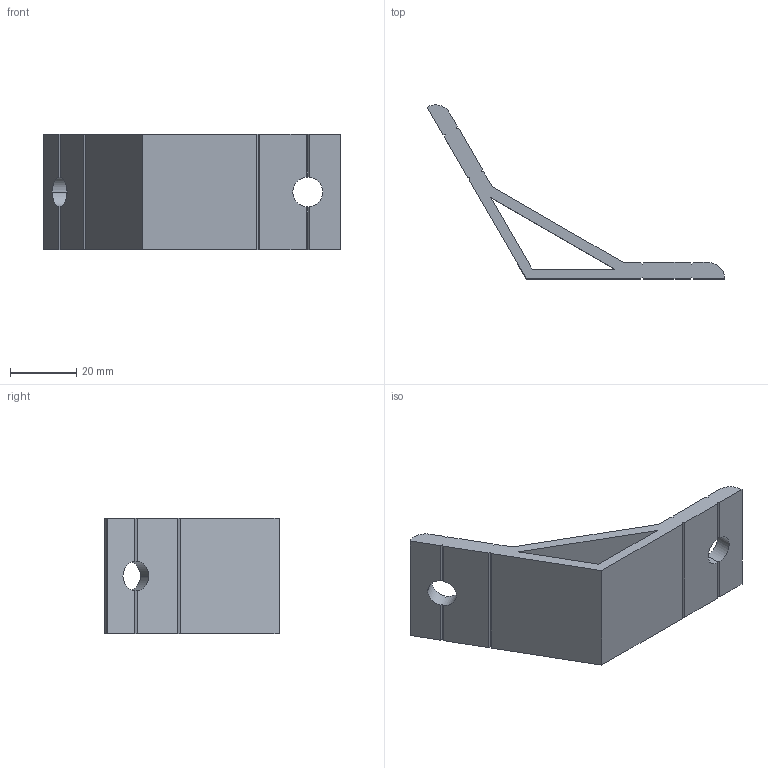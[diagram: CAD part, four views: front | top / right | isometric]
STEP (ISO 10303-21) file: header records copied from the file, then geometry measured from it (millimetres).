
FILE_DESCRIPTION (( 'STEP AP203' ), '1' );
FILE_NAME ('WA35120-8.STEP', '2024-02-19T06:17:47', ( '' ), ( '' ), 'SwSTEP 2.0', 'SolidWorks 2022', '' );
FILE_SCHEMA (( 'CONFIG_CONTROL_DESIGN' ));
Length unit declared in the file: millimetre
Products named in the file (1): WA35120-8
Bounding box: 90 x 52.63 x 35 mm (x, y, z)
Volume: 20497.6 mm3; surface area: 12750.3 mm2
Topology: 1 solids, 1 shells, 48 faces, 146 edges, 96 vertices
Faces by surface type: plane 42, cylinder 6
Entity records: 1703 total; most frequent: CARTESIAN_POINT 339, ORIENTED_EDGE 292, DIRECTION 244, EDGE_CURVE 146, LINE 114, VECTOR 114, VERTEX_POINT 96, AXIS2_PLACEMENT_3D 65
